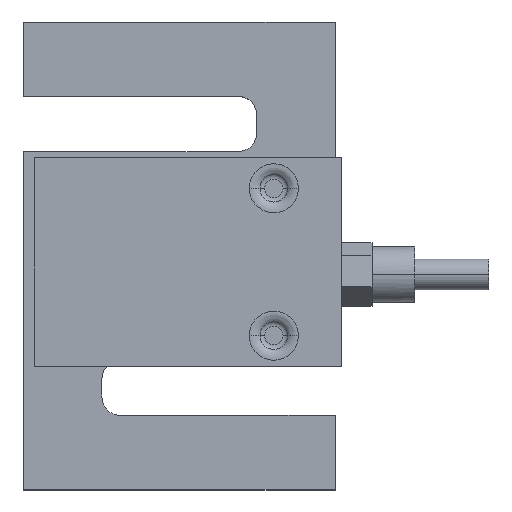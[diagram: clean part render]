
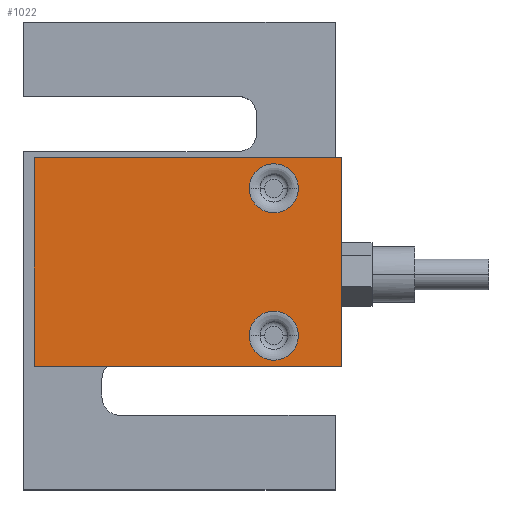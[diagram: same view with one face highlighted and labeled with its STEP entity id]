
A CAD part, top view. The second image highlights one B-rep face of the part: STEP entity #1022.
In plain terms, the highlighted planar face has unit normal (0, 0, 1).
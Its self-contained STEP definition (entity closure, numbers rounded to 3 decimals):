
#12 = CARTESIAN_POINT ( 'NONE',  ( 28.727, 33.452, 42.291 ) ) ;
#34 = EDGE_CURVE ( 'NONE', #3275, #3505, #2412, .T. ) ;
#35 = CARTESIAN_POINT ( 'NONE',  ( 32.727, 9.452, 42.291 ) ) ;
#120 = CARTESIAN_POINT ( 'NONE',  ( 36.727, 33.452, 42.291 ) ) ;
#178 = ORIENTED_EDGE ( 'NONE', *, *, #564, .T. ) ;
#216 = ORIENTED_EDGE ( 'NONE', *, *, #335, .F. ) ;
#272 = DIRECTION ( 'NONE',  ( 0., 0., 1. ) ) ;
#278 = AXIS2_PLACEMENT_3D ( 'NONE', #3956, #272, #909 ) ;
#335 = EDGE_CURVE ( 'NONE', #1110, #2158, #3503, .T. ) ;
#443 = VECTOR ( 'NONE', #927, 1000. ) ;
#480 = DIRECTION ( 'NONE',  ( 1., 0., 0. ) ) ;
#491 = VECTOR ( 'NONE', #1733, 1000. ) ;
#540 = CARTESIAN_POINT ( 'NONE',  ( 43.727, 38.452, 42.291 ) ) ;
#564 = EDGE_CURVE ( 'NONE', #743, #2158, #3874, .T. ) ;
#574 = ORIENTED_EDGE ( 'NONE', *, *, #34, .F. ) ;
#654 = VECTOR ( 'NONE', #2489, 1000. ) ;
#692 = EDGE_CURVE ( 'NONE', #1930, #743, #1231, .T. ) ;
#743 = VERTEX_POINT ( 'NONE', #3738 ) ;
#759 = CARTESIAN_POINT ( 'NONE',  ( 43.727, 4.452, 42.291 ) ) ;
#802 = DIRECTION ( 'NONE',  ( 0., 0., 1. ) ) ;
#909 = DIRECTION ( 'NONE',  ( 1., 0., 0. ) ) ;
#917 = DIRECTION ( 'NONE',  ( 0., 0., 1. ) ) ;
#927 = DIRECTION ( 'NONE',  ( 0., -1., 0. ) ) ;
#1022 = ADVANCED_FACE ( 'NONE', ( #3832, #2014, #3300 ), #3597, .F. ) ;
#1110 = VERTEX_POINT ( 'NONE', #1136 ) ;
#1136 = CARTESIAN_POINT ( 'NONE',  ( 43.727, 38.452, 42.291 ) ) ;
#1222 = EDGE_CURVE ( 'NONE', #1984, #2282, #1416, .T. ) ;
#1231 = LINE ( 'NONE', #3383, #443 ) ;
#1316 = DIRECTION ( 'NONE',  ( 1., 0., 0. ) ) ;
#1360 = ORIENTED_EDGE ( 'NONE', *, *, #1222, .F. ) ;
#1416 = CIRCLE ( 'NONE', #278, 4. ) ;
#1571 = EDGE_LOOP ( 'NONE', ( #178, #216, #1596, #2775 ) ) ;
#1596 = ORIENTED_EDGE ( 'NONE', *, *, #2022, .F. ) ;
#1624 = CARTESIAN_POINT ( 'NONE',  ( 36.727, 9.452, 42.291 ) ) ;
#1633 = CARTESIAN_POINT ( 'NONE',  ( 43.727, 38.452, 42.291 ) ) ;
#1639 = EDGE_LOOP ( 'NONE', ( #1360, #1938 ) ) ;
#1644 = AXIS2_PLACEMENT_3D ( 'NONE', #2610, #802, #480 ) ;
#1721 = CARTESIAN_POINT ( 'NONE',  ( 43.727, 4.452, 42.291 ) ) ;
#1724 = AXIS2_PLACEMENT_3D ( 'NONE', #3155, #3477, #1316 ) ;
#1728 = DIRECTION ( 'NONE',  ( -1., 0., 0. ) ) ;
#1733 = DIRECTION ( 'NONE',  ( 1., 0., 0. ) ) ;
#1738 = EDGE_LOOP ( 'NONE', ( #2839, #574 ) ) ;
#1930 = VERTEX_POINT ( 'NONE', #3347 ) ;
#1938 = ORIENTED_EDGE ( 'NONE', *, *, #2540, .F. ) ;
#1944 = AXIS2_PLACEMENT_3D ( 'NONE', #540, #2663, #1728 ) ;
#1984 = VERTEX_POINT ( 'NONE', #12 ) ;
#2014 = FACE_BOUND ( 'NONE', #1639, .T. ) ;
#2022 = EDGE_CURVE ( 'NONE', #1930, #1110, #3703, .T. ) ;
#2103 = EDGE_CURVE ( 'NONE', #3505, #3275, #2283, .T. ) ;
#2158 = VERTEX_POINT ( 'NONE', #759 ) ;
#2282 = VERTEX_POINT ( 'NONE', #120 ) ;
#2283 = CIRCLE ( 'NONE', #1724, 4. ) ;
#2412 = CIRCLE ( 'NONE', #3766, 4. ) ;
#2489 = DIRECTION ( 'NONE',  ( 1., 0., 0. ) ) ;
#2540 = EDGE_CURVE ( 'NONE', #2282, #1984, #3049, .T. ) ;
#2610 = CARTESIAN_POINT ( 'NONE',  ( 32.727, 33.452, 42.291 ) ) ;
#2663 = DIRECTION ( 'NONE',  ( 0., 0., -1. ) ) ;
#2736 = DIRECTION ( 'NONE',  ( 1., 0., 0. ) ) ;
#2772 = VECTOR ( 'NONE', #3829, 1000. ) ;
#2775 = ORIENTED_EDGE ( 'NONE', *, *, #692, .T. ) ;
#2839 = ORIENTED_EDGE ( 'NONE', *, *, #2103, .F. ) ;
#2847 = CARTESIAN_POINT ( 'NONE',  ( 28.727, 9.452, 42.291 ) ) ;
#3049 = CIRCLE ( 'NONE', #1644, 4. ) ;
#3126 = CARTESIAN_POINT ( 'NONE',  ( 43.727, 38.452, 42.291 ) ) ;
#3155 = CARTESIAN_POINT ( 'NONE',  ( 32.727, 9.452, 42.291 ) ) ;
#3275 = VERTEX_POINT ( 'NONE', #1624 ) ;
#3300 = FACE_OUTER_BOUND ( 'NONE', #1571, .T. ) ;
#3347 = CARTESIAN_POINT ( 'NONE',  ( -6.273, 38.452, 42.291 ) ) ;
#3383 = CARTESIAN_POINT ( 'NONE',  ( -6.273, 38.452, 42.291 ) ) ;
#3477 = DIRECTION ( 'NONE',  ( 0., 0., 1. ) ) ;
#3503 = LINE ( 'NONE', #1633, #2772 ) ;
#3505 = VERTEX_POINT ( 'NONE', #2847 ) ;
#3597 = PLANE ( 'NONE',  #1944 ) ;
#3703 = LINE ( 'NONE', #3126, #654 ) ;
#3738 = CARTESIAN_POINT ( 'NONE',  ( -6.273, 4.452, 42.291 ) ) ;
#3766 = AXIS2_PLACEMENT_3D ( 'NONE', #35, #917, #2736 ) ;
#3829 = DIRECTION ( 'NONE',  ( 0., -1., 0. ) ) ;
#3832 = FACE_BOUND ( 'NONE', #1738, .T. ) ;
#3874 = LINE ( 'NONE', #1721, #491 ) ;
#3956 = CARTESIAN_POINT ( 'NONE',  ( 32.727, 33.452, 42.291 ) ) ;
